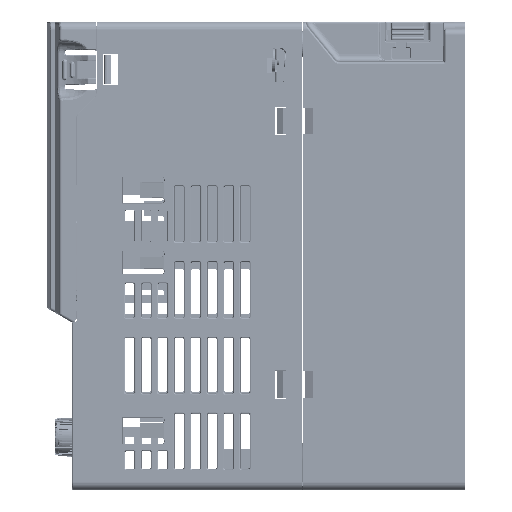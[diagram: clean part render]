
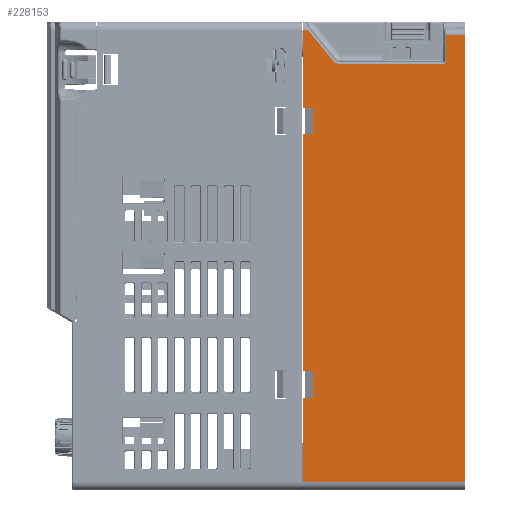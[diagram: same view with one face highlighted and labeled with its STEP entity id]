
A CAD part, left-side view. The second image highlights one B-rep face of the part: STEP entity #228153.
In plain terms, the highlighted planar face has unit normal (-1, 0, 0).
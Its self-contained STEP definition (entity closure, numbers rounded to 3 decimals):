
#213361=DIRECTION('',(0.,-1.,
0.));
#213362=VECTOR('',#213361,31.545);
#213363=CARTESIAN_POINT('',(-36.,-0.256,
58.308));
#213364=LINE('',#213363,#213362);
#213368=DIRECTION('',(0.,0.,1.));
#213369=VECTOR('',#213368,7.892);
#213370=CARTESIAN_POINT('',(-36.,-32.601,
59.108));
#213371=LINE('',#213370,#213369);
#213375=DIRECTION('',(0.,-1.,
0.));
#213376=VECTOR('',#213375,5.799);
#213377=CARTESIAN_POINT('',(-36.,-32.601,
67.));
#213378=LINE('',#213377,#213376);
#213382=DIRECTION('',(0.,0.,-1.));
#213383=VECTOR('',#213382,135.5);
#213384=CARTESIAN_POINT('',(-36.,-38.4,67.));
#213385=LINE('',#213384,#213383);
#213389=DIRECTION('',(0.,0.,1.));
#213390=VECTOR('',#213389,25.489);
#213391=CARTESIAN_POINT('',(-36.,10.8,-68.5));
#213392=LINE('',#213391,#213390);
#213396=DIRECTION('',(0.,-1.,0.));
#213397=VECTOR('',#213396,3.);
#213398=CARTESIAN_POINT('',(-36.,10.8,-43.011));
#213399=LINE('',#213398,#213397);
#213403=DIRECTION('',(0.,0.,1.));
#213404=VECTOR('',#213403,8.022);
#213405=CARTESIAN_POINT('',(-36.,7.8,
-43.011));
#213406=LINE('',#213405,#213404);
#213410=DIRECTION('',(0.,0.,1.));
#213411=VECTOR('',#213410,71.98);
#213412=CARTESIAN_POINT('',(-36.,10.8,-34.99));
#213413=LINE('',#213412,#213411);
#213417=DIRECTION('',(0.,-1.,
0.));
#213418=VECTOR('',#213417,3.);
#213419=CARTESIAN_POINT('',(-36.,10.8,36.99));
#213420=LINE('',#213419,#213418);
#213424=DIRECTION('',(0.,0.,1.));
#213425=VECTOR('',#213424,8.022);
#213426=CARTESIAN_POINT('',(-36.,7.8,
36.989));
#213427=LINE('',#213426,#213425);
#213431=DIRECTION('',(0.,0.,1.));
#213432=VECTOR('',#213431,23.49);
#213433=CARTESIAN_POINT('',(-36.,10.8,45.01));
#213434=LINE('',#213433,#213432);
#213438=DIRECTION('',(0.,-1.,
0.));
#213439=VECTOR('',#213438,1.533);
#213440=CARTESIAN_POINT('',(-36.,10.8,68.5));
#213441=LINE('',#213440,#213439);
#213445=DIRECTION('',(0.,-0.633,-0.774));
#213446=VECTOR('',#213445,11.985);
#213447=CARTESIAN_POINT('',(-36.,9.267,
68.5));
#213448=LINE('',#213447,#213446);
#213471=CARTESIAN_POINT('',(-36.,-32.601,
59.108));
#213472=CARTESIAN_POINT('',(-36.,-32.601,
58.999));
#213473=CARTESIAN_POINT('',(-36.,-32.559,
58.796));
#213474=CARTESIAN_POINT('',(-36.,-32.382,
58.528));
#213475=CARTESIAN_POINT('',(-36.,-32.113,
58.351));
#213476=CARTESIAN_POINT('',(-36.,-31.911,
58.308));
#213477=CARTESIAN_POINT('',(-36.,-31.801,
58.308));
#213750=CARTESIAN_POINT('',(-36.,-0.256,
58.308));
#213751=CARTESIAN_POINT('',(-36.,-0.003,
58.309));
#213752=CARTESIAN_POINT('',(-36.,0.477,
58.381));
#213753=CARTESIAN_POINT('',(-36.,1.157,
58.703));
#213754=CARTESIAN_POINT('',(-36.,1.518,
59.029));
#213755=CARTESIAN_POINT('',(-36.,1.678,
59.225));
#217773=DIRECTION('',(0.,-1.,0.));
#217774=VECTOR('',#217773,3.);
#217775=CARTESIAN_POINT('',(-36.,10.8,-34.99));
#217776=LINE('',#217775,#217774);
#217881=DIRECTION('',(0.,-1.,0.));
#217882=VECTOR('',#217881,3.);
#217883=CARTESIAN_POINT('',(-36.,10.8,45.01));
#217884=LINE('',#217883,#217882);
#217902=DIRECTION('',(0.,-1.,0.));
#217903=VECTOR('',#217902,49.2);
#217904=CARTESIAN_POINT('',(-36.,10.8,-68.5));
#217905=LINE('',#217904,#217903);
#225783=CARTESIAN_POINT('',(-36.,-38.4,-68.5));
#225784=VERTEX_POINT('',#225783);
#225785=CARTESIAN_POINT('',(-36.,-38.4,67.));
#225786=VERTEX_POINT('',#225785);
#225885=CARTESIAN_POINT('',(-36.,-32.601,
67.));
#225886=VERTEX_POINT('',#225885);
#225887=CARTESIAN_POINT('',(-36.,-0.256,
58.308));
#225888=CARTESIAN_POINT('',(-36.,-31.801,
58.308));
#225889=VERTEX_POINT('',#225887);
#225890=VERTEX_POINT('',#225888);
#225891=VERTEX_POINT('',#213471);
#225892=CARTESIAN_POINT('',(-36.,10.8,-68.5));
#225893=VERTEX_POINT('',#225892);
#225894=CARTESIAN_POINT('',(-36.,10.8,-43.011));
#225895=VERTEX_POINT('',#225894);
#225896=CARTESIAN_POINT('',(-36.,7.8,
-43.011));
#225897=VERTEX_POINT('',#225896);
#225898=CARTESIAN_POINT('',(-36.,7.8,
-34.989));
#225899=VERTEX_POINT('',#225898);
#225900=CARTESIAN_POINT('',(-36.,10.8,-34.99));
#225901=VERTEX_POINT('',#225900);
#225902=CARTESIAN_POINT('',(-36.,10.8,36.99));
#225903=VERTEX_POINT('',#225902);
#225904=CARTESIAN_POINT('',(-36.,7.8,
36.989));
#225905=VERTEX_POINT('',#225904);
#225906=CARTESIAN_POINT('',(-36.,7.8,
45.011));
#225907=VERTEX_POINT('',#225906);
#225908=CARTESIAN_POINT('',(-36.,10.8,45.01));
#225909=VERTEX_POINT('',#225908);
#225910=CARTESIAN_POINT('',(-36.,10.8,68.5));
#225911=VERTEX_POINT('',#225910);
#225912=CARTESIAN_POINT('',(-36.,9.267,
68.5));
#225913=VERTEX_POINT('',#225912);
#225914=CARTESIAN_POINT('',(-36.,1.678,
59.225));
#225915=VERTEX_POINT('',#225914);
#228112=CARTESIAN_POINT('',(-36.,12.1,-71.));
#228113=DIRECTION('',(-1.,0.,0.));
#228114=DIRECTION('',(0.,0.,1.));
#228115=AXIS2_PLACEMENT_3D('',#228112,#228113,#228114);
#228116=PLANE('',#228115);
#228118=ORIENTED_EDGE('',*,*,#228117,.T.);
#228120=ORIENTED_EDGE('',*,*,#228119,.F.);
#228122=ORIENTED_EDGE('',*,*,#228121,.T.);
#228123=ORIENTED_EDGE('',*,*,#228105,.T.);
#228124=ORIENTED_EDGE('',*,*,#227944,.T.);
#228126=ORIENTED_EDGE('',*,*,#228125,.F.);
#228128=ORIENTED_EDGE('',*,*,#228127,.T.);
#228130=ORIENTED_EDGE('',*,*,#228129,.T.);
#228132=ORIENTED_EDGE('',*,*,#228131,.T.);
#228134=ORIENTED_EDGE('',*,*,#228133,.F.);
#228136=ORIENTED_EDGE('',*,*,#228135,.T.);
#228138=ORIENTED_EDGE('',*,*,#228137,.T.);
#228140=ORIENTED_EDGE('',*,*,#228139,.T.);
#228142=ORIENTED_EDGE('',*,*,#228141,.F.);
#228144=ORIENTED_EDGE('',*,*,#228143,.T.);
#228146=ORIENTED_EDGE('',*,*,#228145,.T.);
#228148=ORIENTED_EDGE('',*,*,#228147,.T.);
#228150=ORIENTED_EDGE('',*,*,#228149,.F.);
#228151=EDGE_LOOP('',(#228118,#228120,#228122,#228123,#228124,#228126,#228128,
#228130,#228132,#228134,#228136,#228138,#228140,#228142,#228144,#228146,#228148,
#228150));
#228152=FACE_OUTER_BOUND('',#228151,.F.);
#213478=B_SPLINE_CURVE_WITH_KNOTS('',3,(#213471,#213472,#213473,#213474,#213475,
#213476,#213477),.UNSPECIFIED.,.F.,.F.,(4,1,1,1,4),(0.,0.25,0.5,0.75,
1.),.UNSPECIFIED.);
#213756=B_SPLINE_CURVE_WITH_KNOTS('',3,(#213750,#213751,#213752,#213753,#213754,
#213755),.UNSPECIFIED.,.F.,.F.,(4,1,1,4),(0.,0.333,
0.667,1.),.UNSPECIFIED.);
#227944=EDGE_CURVE('',#225786,#225784,#213385,.T.);
#228105=EDGE_CURVE('',#225886,#225786,#213378,.T.);
#228117=EDGE_CURVE('',#225889,#225890,#213364,.T.);
#228119=EDGE_CURVE('',#225891,#225890,#213478,.T.);
#228121=EDGE_CURVE('',#225891,#225886,#213371,.T.);
#228125=EDGE_CURVE('',#225893,#225784,#217905,.T.);
#228127=EDGE_CURVE('',#225893,#225895,#213392,.T.);
#228129=EDGE_CURVE('',#225895,#225897,#213399,.T.);
#228131=EDGE_CURVE('',#225897,#225899,#213406,.T.);
#228133=EDGE_CURVE('',#225901,#225899,#217776,.T.);
#228135=EDGE_CURVE('',#225901,#225903,#213413,.T.);
#228137=EDGE_CURVE('',#225903,#225905,#213420,.T.);
#228139=EDGE_CURVE('',#225905,#225907,#213427,.T.);
#228141=EDGE_CURVE('',#225909,#225907,#217884,.T.);
#228143=EDGE_CURVE('',#225909,#225911,#213434,.T.);
#228145=EDGE_CURVE('',#225911,#225913,#213441,.T.);
#228147=EDGE_CURVE('',#225913,#225915,#213448,.T.);
#228149=EDGE_CURVE('',#225889,#225915,#213756,.T.);
#228153=ADVANCED_FACE('',(#228152),#228116,.T.);
